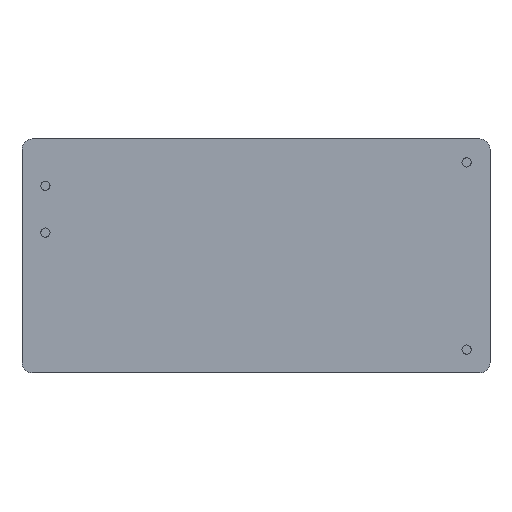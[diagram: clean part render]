
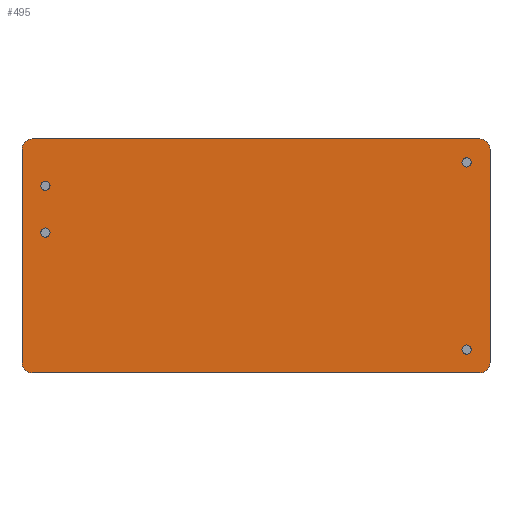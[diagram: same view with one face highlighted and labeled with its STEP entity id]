
A CAD part, front view. The second image highlights one B-rep face of the part: STEP entity #495.
In plain terms, the highlighted planar face has unit normal (0, -1, 0).
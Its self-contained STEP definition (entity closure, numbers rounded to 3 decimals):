
#5 = FACE_BOUND ( 'NONE', #115, .T. ) ;
#7 = CARTESIAN_POINT ( 'NONE',  ( -25.4, 0., -12.7 ) ) ;
#8 = VERTEX_POINT ( 'NONE', #542 ) ;
#17 = EDGE_LOOP ( 'NONE', ( #336, #710 ) ) ;
#20 = DIRECTION ( 'NONE',  ( 0., -1., 0. ) ) ;
#28 = VERTEX_POINT ( 'NONE', #34 ) ;
#33 = CARTESIAN_POINT ( 'NONE',  ( 22.86, 0., -10.16 ) ) ;
#34 = CARTESIAN_POINT ( 'NONE',  ( 24.307, 0., -12.7 ) ) ;
#48 = VERTEX_POINT ( 'NONE', #153 ) ;
#52 = EDGE_CURVE ( 'NONE', #868, #8, #830, .T. ) ;
#55 = DIRECTION ( 'NONE',  ( 0., -1., 0. ) ) ;
#60 = EDGE_CURVE ( 'NONE', #28, #506, #639, .T. ) ;
#64 = LINE ( 'NONE', #415, #529 ) ;
#70 = CARTESIAN_POINT ( 'NONE',  ( -22.86, 0., 7.62 ) ) ;
#75 = DIRECTION ( 'NONE',  ( 0., -1., 0. ) ) ;
#80 = AXIS2_PLACEMENT_3D ( 'NONE', #261, #623, #128 ) ;
#81 = DIRECTION ( 'NONE',  ( 0., -1., 0. ) ) ;
#82 = ORIENTED_EDGE ( 'NONE', *, *, #159, .T. ) ;
#86 = EDGE_CURVE ( 'NONE', #703, #353, #169, .T. ) ;
#89 = CARTESIAN_POINT ( 'NONE',  ( -22.86, 0., 2.04 ) ) ;
#90 = AXIS2_PLACEMENT_3D ( 'NONE', #70, #81, #490 ) ;
#94 = CIRCLE ( 'NONE', #80, 1.093 ) ;
#101 = EDGE_CURVE ( 'NONE', #450, #48, #255, .T. ) ;
#114 = EDGE_CURVE ( 'NONE', #353, #703, #816, .T. ) ;
#115 = EDGE_LOOP ( 'NONE', ( #237, #306 ) ) ;
#128 = DIRECTION ( 'NONE',  ( 0., 0., 1. ) ) ;
#146 = CARTESIAN_POINT ( 'NONE',  ( -22.86, 0., 3.04 ) ) ;
#148 = ORIENTED_EDGE ( 'NONE', *, *, #175, .F. ) ;
#150 = PLANE ( 'NONE',  #154 ) ;
#151 = CIRCLE ( 'NONE', #773, 0.5 ) ;
#153 = CARTESIAN_POINT ( 'NONE',  ( 22.86, 0., 9.66 ) ) ;
#154 = AXIS2_PLACEMENT_3D ( 'NONE', #840, #712, #850 ) ;
#159 = EDGE_CURVE ( 'NONE', #28, #679, #588, .T. ) ;
#169 = CIRCLE ( 'NONE', #90, 0.5 ) ;
#175 = EDGE_CURVE ( 'NONE', #657, #8, #64, .T. ) ;
#177 = ORIENTED_EDGE ( 'NONE', *, *, #659, .F. ) ;
#183 = AXIS2_PLACEMENT_3D ( 'NONE', #33, #257, #662 ) ;
#202 = AXIS2_PLACEMENT_3D ( 'NONE', #408, #55, #895 ) ;
#218 = VERTEX_POINT ( 'NONE', #721 ) ;
#220 = DIRECTION ( 'NONE',  ( 0., -1., 0. ) ) ;
#223 = DIRECTION ( 'NONE',  ( -1., 0., 0. ) ) ;
#229 = DIRECTION ( 'NONE',  ( 0., 0., 1. ) ) ;
#237 = ORIENTED_EDGE ( 'NONE', *, *, #239, .F. ) ;
#239 = EDGE_CURVE ( 'NONE', #496, #481, #151, .T. ) ;
#247 = LINE ( 'NONE', #386, #505 ) ;
#255 = CIRCLE ( 'NONE', #453, 0.5 ) ;
#256 = AXIS2_PLACEMENT_3D ( 'NONE', #445, #858, #388 ) ;
#257 = DIRECTION ( 'NONE',  ( 0., -1., 0. ) ) ;
#260 = VERTEX_POINT ( 'NONE', #856 ) ;
#261 = CARTESIAN_POINT ( 'NONE',  ( -24.307, 0., -11.607 ) ) ;
#264 = ORIENTED_EDGE ( 'NONE', *, *, #698, .F. ) ;
#286 = DIRECTION ( 'NONE',  ( 0., -1., 0. ) ) ;
#287 = EDGE_LOOP ( 'NONE', ( #548, #737 ) ) ;
#289 = FACE_BOUND ( 'NONE', #287, .T. ) ;
#293 = FACE_OUTER_BOUND ( 'NONE', #688, .T. ) ;
#294 = DIRECTION ( 'NONE',  ( 0., 0., 1. ) ) ;
#305 = CARTESIAN_POINT ( 'NONE',  ( -22.86, 0., 2.54 ) ) ;
#306 = ORIENTED_EDGE ( 'NONE', *, *, #562, .F. ) ;
#311 = LINE ( 'NONE', #727, #832 ) ;
#312 = AXIS2_PLACEMENT_3D ( 'NONE', #692, #286, #763 ) ;
#313 = ORIENTED_EDGE ( 'NONE', *, *, #770, .T. ) ;
#323 = DIRECTION ( 'NONE',  ( 0., 0., 1. ) ) ;
#336 = ORIENTED_EDGE ( 'NONE', *, *, #806, .F. ) ;
#337 = CARTESIAN_POINT ( 'NONE',  ( -24.307, 0., 11.607 ) ) ;
#339 = VERTEX_POINT ( 'NONE', #747 ) ;
#344 = AXIS2_PLACEMENT_3D ( 'NONE', #337, #892, #604 ) ;
#349 = DIRECTION ( 'NONE',  ( 1., 0., 0. ) ) ;
#353 = VERTEX_POINT ( 'NONE', #467 ) ;
#386 = CARTESIAN_POINT ( 'NONE',  ( 25.4, 0., -12.7 ) ) ;
#388 = DIRECTION ( 'NONE',  ( 0., 0., 1. ) ) ;
#408 = CARTESIAN_POINT ( 'NONE',  ( 22.86, 0., -10.16 ) ) ;
#415 = CARTESIAN_POINT ( 'NONE',  ( -25.4, 0., 12.7 ) ) ;
#432 = CIRCLE ( 'NONE', #202, 0.5 ) ;
#444 = ORIENTED_EDGE ( 'NONE', *, *, #838, .T. ) ;
#445 = CARTESIAN_POINT ( 'NONE',  ( 22.86, 0., 10.16 ) ) ;
#450 = VERTEX_POINT ( 'NONE', #634 ) ;
#453 = AXIS2_PLACEMENT_3D ( 'NONE', #697, #220, #294 ) ;
#467 = CARTESIAN_POINT ( 'NONE',  ( -22.86, 0., 8.12 ) ) ;
#481 = VERTEX_POINT ( 'NONE', #89 ) ;
#484 = DIRECTION ( 'NONE',  ( 0., 0., 1. ) ) ;
#485 = VERTEX_POINT ( 'NONE', #648 ) ;
#490 = DIRECTION ( 'NONE',  ( 0., 0., 1. ) ) ;
#495 = ADVANCED_FACE ( 'NONE', ( #573, #784, #5, #289, #293 ), #150, .F. ) ;
#496 = VERTEX_POINT ( 'NONE', #146 ) ;
#505 = VECTOR ( 'NONE', #670, 1000. ) ;
#506 = VERTEX_POINT ( 'NONE', #508 ) ;
#508 = CARTESIAN_POINT ( 'NONE',  ( -24.307, 0., -12.7 ) ) ;
#529 = VECTOR ( 'NONE', #349, 1000. ) ;
#537 = DIRECTION ( 'NONE',  ( 0., 0., 1. ) ) ;
#542 = CARTESIAN_POINT ( 'NONE',  ( 24.307, 0., 12.7 ) ) ;
#548 = ORIENTED_EDGE ( 'NONE', *, *, #114, .F. ) ;
#557 = CARTESIAN_POINT ( 'NONE',  ( -22.86, 0., 7.62 ) ) ;
#562 = EDGE_CURVE ( 'NONE', #481, #496, #799, .T. ) ;
#563 = DIRECTION ( 'NONE',  ( 0., -1., 0. ) ) ;
#573 = FACE_BOUND ( 'NONE', #17, .T. ) ;
#579 = DIRECTION ( 'NONE',  ( 0., 0., 1. ) ) ;
#583 = CARTESIAN_POINT ( 'NONE',  ( -24.307, 0., 12.7 ) ) ;
#584 = DIRECTION ( 'NONE',  ( 0., -1., 0. ) ) ;
#588 = CIRCLE ( 'NONE', #312, 1.093 ) ;
#593 = CARTESIAN_POINT ( 'NONE',  ( -22.86, 0., 7.12 ) ) ;
#604 = DIRECTION ( 'NONE',  ( 0., 0., 1. ) ) ;
#623 = DIRECTION ( 'NONE',  ( 0., -1., 0. ) ) ;
#634 = CARTESIAN_POINT ( 'NONE',  ( 22.86, 0., 10.66 ) ) ;
#639 = LINE ( 'NONE', #7, #888 ) ;
#645 = EDGE_CURVE ( 'NONE', #485, #339, #311, .T. ) ;
#648 = CARTESIAN_POINT ( 'NONE',  ( -25.4, 0., -11.607 ) ) ;
#652 = CIRCLE ( 'NONE', #344, 1.093 ) ;
#657 = VERTEX_POINT ( 'NONE', #583 ) ;
#659 = EDGE_CURVE ( 'NONE', #48, #450, #889, .T. ) ;
#662 = DIRECTION ( 'NONE',  ( 0., 0., 1. ) ) ;
#665 = AXIS2_PLACEMENT_3D ( 'NONE', #715, #20, #579 ) ;
#669 = EDGE_CURVE ( 'NONE', #218, #260, #776, .T. ) ;
#670 = DIRECTION ( 'NONE',  ( 0., 0., -1. ) ) ;
#679 = VERTEX_POINT ( 'NONE', #788 ) ;
#688 = EDGE_LOOP ( 'NONE', ( #878, #82, #264, #726, #148, #313, #739, #444 ) ) ;
#692 = CARTESIAN_POINT ( 'NONE',  ( 24.307, 0., -11.607 ) ) ;
#697 = CARTESIAN_POINT ( 'NONE',  ( 22.86, 0., 10.16 ) ) ;
#698 = EDGE_CURVE ( 'NONE', #868, #679, #247, .T. ) ;
#703 = VERTEX_POINT ( 'NONE', #593 ) ;
#707 = AXIS2_PLACEMENT_3D ( 'NONE', #557, #563, #229 ) ;
#710 = ORIENTED_EDGE ( 'NONE', *, *, #669, .F. ) ;
#712 = DIRECTION ( 'NONE',  ( 0., 1., 0. ) ) ;
#715 = CARTESIAN_POINT ( 'NONE',  ( -22.86, 0., 2.54 ) ) ;
#721 = CARTESIAN_POINT ( 'NONE',  ( 22.86, 0., -10.66 ) ) ;
#726 = ORIENTED_EDGE ( 'NONE', *, *, #52, .T. ) ;
#727 = CARTESIAN_POINT ( 'NONE',  ( -25.4, 0., -12.7 ) ) ;
#728 = EDGE_LOOP ( 'NONE', ( #882, #177 ) ) ;
#737 = ORIENTED_EDGE ( 'NONE', *, *, #86, .F. ) ;
#739 = ORIENTED_EDGE ( 'NONE', *, *, #645, .F. ) ;
#742 = AXIS2_PLACEMENT_3D ( 'NONE', #837, #75, #484 ) ;
#745 = CARTESIAN_POINT ( 'NONE',  ( 25.4, 0., 11.607 ) ) ;
#747 = CARTESIAN_POINT ( 'NONE',  ( -25.4, 0., 11.607 ) ) ;
#763 = DIRECTION ( 'NONE',  ( 0., 0., 1. ) ) ;
#770 = EDGE_CURVE ( 'NONE', #657, #339, #652, .T. ) ;
#773 = AXIS2_PLACEMENT_3D ( 'NONE', #305, #584, #537 ) ;
#776 = CIRCLE ( 'NONE', #183, 0.5 ) ;
#784 = FACE_BOUND ( 'NONE', #728, .T. ) ;
#788 = CARTESIAN_POINT ( 'NONE',  ( 25.4, 0., -11.607 ) ) ;
#799 = CIRCLE ( 'NONE', #665, 0.5 ) ;
#806 = EDGE_CURVE ( 'NONE', #260, #218, #432, .T. ) ;
#816 = CIRCLE ( 'NONE', #707, 0.5 ) ;
#830 = CIRCLE ( 'NONE', #742, 1.093 ) ;
#832 = VECTOR ( 'NONE', #323, 1000. ) ;
#837 = CARTESIAN_POINT ( 'NONE',  ( 24.307, 0., 11.607 ) ) ;
#838 = EDGE_CURVE ( 'NONE', #485, #506, #94, .T. ) ;
#840 = CARTESIAN_POINT ( 'NONE',  ( 0., 0., 0. ) ) ;
#850 = DIRECTION ( 'NONE',  ( 0., 0., 1. ) ) ;
#856 = CARTESIAN_POINT ( 'NONE',  ( 22.86, 0., -9.66 ) ) ;
#858 = DIRECTION ( 'NONE',  ( 0., -1., 0. ) ) ;
#868 = VERTEX_POINT ( 'NONE', #745 ) ;
#878 = ORIENTED_EDGE ( 'NONE', *, *, #60, .F. ) ;
#882 = ORIENTED_EDGE ( 'NONE', *, *, #101, .F. ) ;
#888 = VECTOR ( 'NONE', #223, 1000. ) ;
#889 = CIRCLE ( 'NONE', #256, 0.5 ) ;
#892 = DIRECTION ( 'NONE',  ( 0., -1., 0. ) ) ;
#895 = DIRECTION ( 'NONE',  ( 0., 0., 1. ) ) ;
